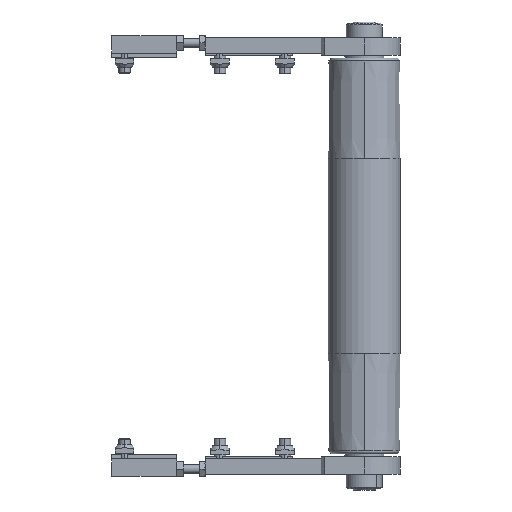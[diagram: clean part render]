
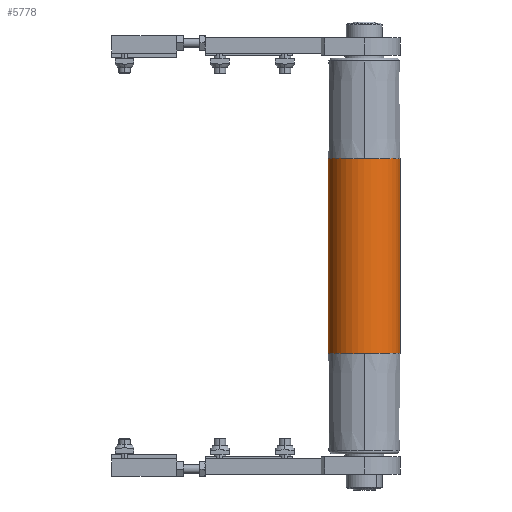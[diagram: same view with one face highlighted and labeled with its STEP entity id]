
A CAD part, front view. The second image highlights one B-rep face of the part: STEP entity #5778.
In plain terms, the highlighted cylindrical face has radius 25 mm (diameter 50 mm), a partial arc.
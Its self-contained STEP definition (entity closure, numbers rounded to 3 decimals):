
#6 = CIRCLE ( 'NONE', #5453, 25. ) ;
#104 = DIRECTION ( 'NONE',  ( -1., 0., 0. ) ) ;
#133 = CARTESIAN_POINT ( 'NONE',  ( 135., 0., 0. ) ) ;
#275 = EDGE_CURVE ( 'NONE', #8401, #9436, #4373, .T. ) ;
#574 = VERTEX_POINT ( 'NONE', #3441 ) ;
#611 = AXIS2_PLACEMENT_3D ( 'NONE', #5860, #104, #6836 ) ;
#727 = ORIENTED_EDGE ( 'NONE', *, *, #2707, .T. ) ;
#1002 = CARTESIAN_POINT ( 'NONE',  ( -67.5, 0., 0. ) ) ;
#1110 = DIRECTION ( 'NONE',  ( -1., 0., 0. ) ) ;
#1416 = CIRCLE ( 'NONE', #9887, 25. ) ;
#1477 = ORIENTED_EDGE ( 'NONE', *, *, #8428, .F. ) ;
#1514 = VERTEX_POINT ( 'NONE', #6835 ) ;
#1582 = LINE ( 'NONE', #9016, #11509 ) ;
#1796 = VERTEX_POINT ( 'NONE', #6350 ) ;
#1980 = DIRECTION ( 'NONE',  ( 0., -1., 0. ) ) ;
#2332 = ORIENTED_EDGE ( 'NONE', *, *, #3856, .T. ) ;
#2707 = EDGE_CURVE ( 'NONE', #11262, #8401, #6, .T. ) ;
#2991 = DIRECTION ( 'NONE',  ( -1., 0., 0. ) ) ;
#3271 = DIRECTION ( 'NONE',  ( -1., 0., 0. ) ) ;
#3441 = CARTESIAN_POINT ( 'NONE',  ( -67.5, 0., 25. ) ) ;
#3856 = EDGE_CURVE ( 'NONE', #9436, #1796, #5571, .T. ) ;
#3960 = DIRECTION ( 'NONE',  ( 0., 0., 1. ) ) ;
#4177 = ORIENTED_EDGE ( 'NONE', *, *, #12348, .F. ) ;
#4265 = DIRECTION ( 'NONE',  ( -1., 0., 0. ) ) ;
#4373 = CIRCLE ( 'NONE', #611, 25. ) ;
#4474 = EDGE_LOOP ( 'NONE', ( #727, #10882, #2332, #10536, #1477, #4177 ) ) ;
#5453 = AXIS2_PLACEMENT_3D ( 'NONE', #10028, #4265, #10989 ) ;
#5504 = CYLINDRICAL_SURFACE ( 'NONE', #11877, 25. ) ;
#5571 = LINE ( 'NONE', #10007, #8143 ) ;
#5778 = ADVANCED_FACE ( 'NONE', ( #10631 ), #5504, .T. ) ;
#5853 = AXIS2_PLACEMENT_3D ( 'NONE', #1002, #7729, #1980 ) ;
#5860 = CARTESIAN_POINT ( 'NONE',  ( 67.5, 0., 0. ) ) ;
#6350 = CARTESIAN_POINT ( 'NONE',  ( -67.5, 0., -25. ) ) ;
#6510 = CARTESIAN_POINT ( 'NONE',  ( 67.5, 25., 0. ) ) ;
#6807 = CARTESIAN_POINT ( 'NONE',  ( 67.5, 0., 25. ) ) ;
#6835 = CARTESIAN_POINT ( 'NONE',  ( -67.5, 25., 0. ) ) ;
#6836 = DIRECTION ( 'NONE',  ( 0., -1., 0. ) ) ;
#7118 = DIRECTION ( 'NONE',  ( -1., 0., 0. ) ) ;
#7729 = DIRECTION ( 'NONE',  ( -1., 0., 0. ) ) ;
#8143 = VECTOR ( 'NONE', #3271, 1000. ) ;
#8401 = VERTEX_POINT ( 'NONE', #6510 ) ;
#8428 = EDGE_CURVE ( 'NONE', #574, #1514, #1416, .T. ) ;
#8781 = CARTESIAN_POINT ( 'NONE',  ( -67.5, 0., 0. ) ) ;
#9016 = CARTESIAN_POINT ( 'NONE',  ( 135., 0., 25. ) ) ;
#9436 = VERTEX_POINT ( 'NONE', #12153 ) ;
#9754 = DIRECTION ( 'NONE',  ( 0., -1., 0. ) ) ;
#9887 = AXIS2_PLACEMENT_3D ( 'NONE', #8781, #2991, #9754 ) ;
#10007 = CARTESIAN_POINT ( 'NONE',  ( 135., 0., -25. ) ) ;
#10028 = CARTESIAN_POINT ( 'NONE',  ( 67.5, 0., 0. ) ) ;
#10234 = EDGE_CURVE ( 'NONE', #1514, #1796, #10506, .T. ) ;
#10506 = CIRCLE ( 'NONE', #5853, 25. ) ;
#10536 = ORIENTED_EDGE ( 'NONE', *, *, #10234, .F. ) ;
#10631 = FACE_OUTER_BOUND ( 'NONE', #4474, .T. ) ;
#10882 = ORIENTED_EDGE ( 'NONE', *, *, #275, .T. ) ;
#10989 = DIRECTION ( 'NONE',  ( 0., -1., 0. ) ) ;
#11262 = VERTEX_POINT ( 'NONE', #6807 ) ;
#11509 = VECTOR ( 'NONE', #7118, 1000. ) ;
#11877 = AXIS2_PLACEMENT_3D ( 'NONE', #133, #1110, #3960 ) ;
#12153 = CARTESIAN_POINT ( 'NONE',  ( 67.5, 0., -25. ) ) ;
#12348 = EDGE_CURVE ( 'NONE', #11262, #574, #1582, .T. ) ;
